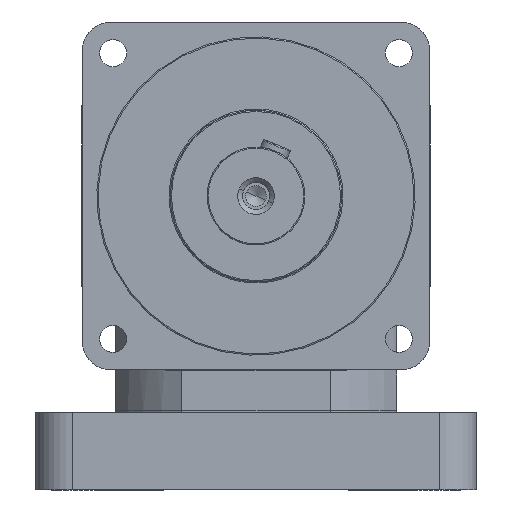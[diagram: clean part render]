
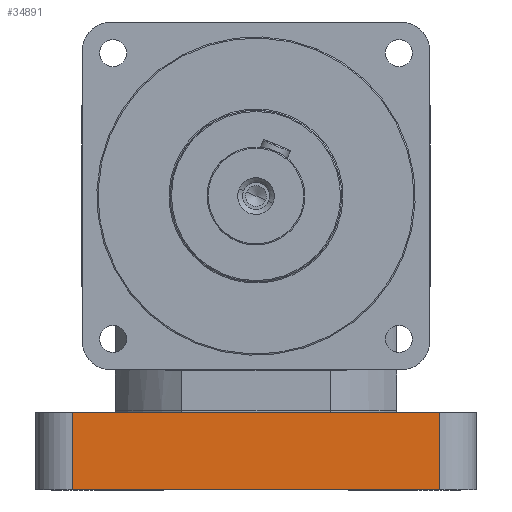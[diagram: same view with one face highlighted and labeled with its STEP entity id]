
A CAD part, left-side view. The second image highlights one B-rep face of the part: STEP entity #34891.
In plain terms, the highlighted planar face has unit normal (-1, 0, 0).
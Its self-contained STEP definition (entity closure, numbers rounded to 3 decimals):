
#2127 = VECTOR ( 'NONE', #26893, 1000. ) ;
#2600 = ORIENTED_EDGE ( 'NONE', *, *, #12833, .F. ) ;
#4907 = CARTESIAN_POINT ( 'NONE',  ( -90., -75., 298.558 ) ) ;
#5251 = LINE ( 'NONE', #13411, #21945 ) ;
#5636 = CARTESIAN_POINT ( 'NONE',  ( -90., 75., 44. ) ) ;
#5651 = EDGE_CURVE ( 'NONE', #38129, #31058, #26204, .T. ) ;
#7357 = VECTOR ( 'NONE', #8879, 1000. ) ;
#8879 = DIRECTION ( 'NONE',  ( 0., 1., 0. ) ) ;
#9408 = ORIENTED_EDGE ( 'NONE', *, *, #12110, .T. ) ;
#10434 = DIRECTION ( 'NONE',  ( -1., 0., 0. ) ) ;
#10446 = EDGE_CURVE ( 'NONE', #25348, #35205, #33570, .T. ) ;
#12110 = EDGE_CURVE ( 'NONE', #31058, #35205, #31444, .T. ) ;
#12833 = EDGE_CURVE ( 'NONE', #38129, #25348, #5251, .T. ) ;
#13411 = CARTESIAN_POINT ( 'NONE',  ( -90., -75., 12.44 ) ) ;
#13653 = EDGE_LOOP ( 'NONE', ( #24492, #9408, #30503, #2600 ) ) ;
#21242 = CARTESIAN_POINT ( 'NONE',  ( -90., 75., 12.44 ) ) ;
#21561 = AXIS2_PLACEMENT_3D ( 'NONE', #29308, #10434, #32460 ) ;
#21945 = VECTOR ( 'NONE', #35395, 1000. ) ;
#23079 = DIRECTION ( 'NONE',  ( 0., 0., 1. ) ) ;
#24492 = ORIENTED_EDGE ( 'NONE', *, *, #5651, .T. ) ;
#25202 = VECTOR ( 'NONE', #23079, 1000. ) ;
#25348 = VERTEX_POINT ( 'NONE', #21242 ) ;
#26204 = LINE ( 'NONE', #4907, #2127 ) ;
#26893 = DIRECTION ( 'NONE',  ( 0., 0., 1. ) ) ;
#27766 = CARTESIAN_POINT ( 'NONE',  ( -90., -75., 44. ) ) ;
#28612 = CARTESIAN_POINT ( 'NONE',  ( -90., -75., 12.44 ) ) ;
#29308 = CARTESIAN_POINT ( 'NONE',  ( -90., -75., 298.558 ) ) ;
#29928 = FACE_OUTER_BOUND ( 'NONE', #13653, .T. ) ;
#30503 = ORIENTED_EDGE ( 'NONE', *, *, #10446, .F. ) ;
#31058 = VERTEX_POINT ( 'NONE', #36154 ) ;
#31444 = LINE ( 'NONE', #27766, #7357 ) ;
#32193 = PLANE ( 'NONE',  #21561 ) ;
#32460 = DIRECTION ( 'NONE',  ( 0., 0., 1. ) ) ;
#33570 = LINE ( 'NONE', #38746, #25202 ) ;
#34891 = ADVANCED_FACE ( 'NONE', ( #29928 ), #32193, .T. ) ;
#35205 = VERTEX_POINT ( 'NONE', #5636 ) ;
#35395 = DIRECTION ( 'NONE',  ( 0., 1., 0. ) ) ;
#36154 = CARTESIAN_POINT ( 'NONE',  ( -90., -75., 44. ) ) ;
#38129 = VERTEX_POINT ( 'NONE', #28612 ) ;
#38746 = CARTESIAN_POINT ( 'NONE',  ( -90., 75., 298.558 ) ) ;
